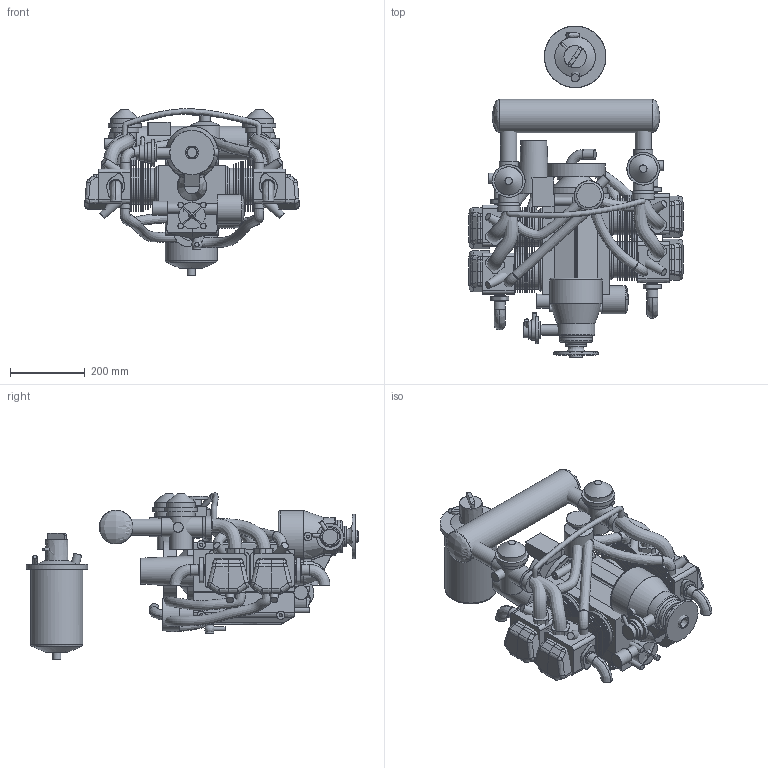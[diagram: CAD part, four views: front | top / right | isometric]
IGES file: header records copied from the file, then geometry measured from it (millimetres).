
Global section: file name: H:\akintyot\harraste Projekteja\aktiivitKehitys\sar\kone\muutmoottorit\rotax\myynti\rotax912.igs; native system: Rhinoceros ( Jun 15 2005 ); preprocessor: Trout Lake IGES 012 Jun 15 2005; date: 050814.144321; units: millimetre
Bounding box: 575.57 x 889.69 x 446.33 mm (x, y, z)
Surface area: 3807357 mm2 (no closed solid volume)
Topology: 0 solids, 0 shells, 974 faces, 22403 edges, 22215 vertices
Faces by surface type: bspline 974
